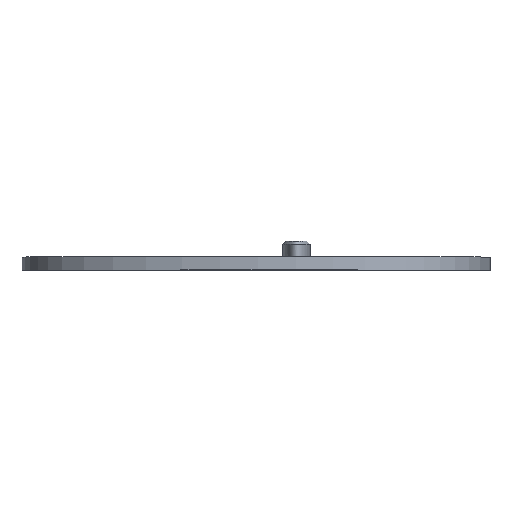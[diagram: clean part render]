
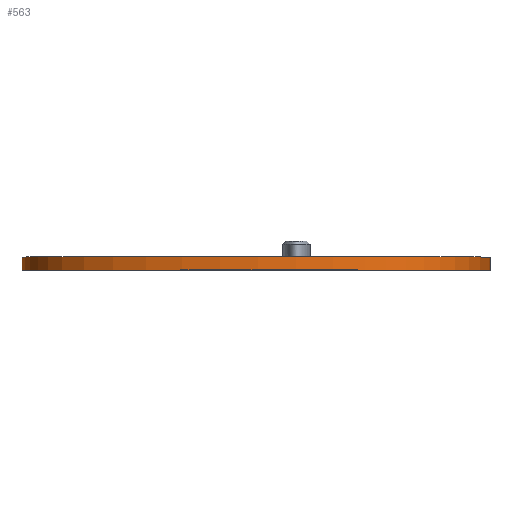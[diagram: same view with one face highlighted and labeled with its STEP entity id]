
A CAD part, top view. The second image highlights one B-rep face of the part: STEP entity #563.
In plain terms, the highlighted free-form (B-spline) face has degree [3, 1] with [21, 2] control points.
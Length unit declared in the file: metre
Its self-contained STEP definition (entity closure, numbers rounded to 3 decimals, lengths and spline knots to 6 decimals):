
#88=B_SPLINE_CURVE_WITH_KNOTS('',3,(#894,#895,#896,#897,#898,#899),
 .UNSPECIFIED.,.F.,.F.,(4,1,1,4),(0.,0.353204,0.653728,
1.),.UNSPECIFIED.);
#89=B_SPLINE_CURVE_WITH_KNOTS('',3,(#903,#904,#905,#906,#907,#908),
 .UNSPECIFIED.,.F.,.F.,(4,1,1,4),(0.,0.353204,0.653728,
1.),.UNSPECIFIED.);
#92=ORIENTED_EDGE('',*,*,#214,.F.);
#93=ORIENTED_EDGE('',*,*,#215,.T.);
#94=ORIENTED_EDGE('',*,*,#216,.T.);
#95=ORIENTED_EDGE('',*,*,#217,.F.);
#214=EDGE_CURVE('',#275,#276,#332,.T.);
#215=EDGE_CURVE('',#275,#277,#88,.T.);
#216=EDGE_CURVE('',#277,#278,#333,.T.);
#217=EDGE_CURVE('',#276,#278,#89,.T.);
#275=VERTEX_POINT('',#892);
#276=VERTEX_POINT('',#893);
#277=VERTEX_POINT('',#900);
#278=VERTEX_POINT('',#902);
#332=LINE('',#891,#342);
#333=LINE('',#901,#343);
#342=VECTOR('',#686,1.);
#343=VECTOR('',#687,1.);
#352=EDGE_LOOP('',(#92,#93,#94,#95));
#456=FACE_BOUND('',#352,.T.);
#560=B_SPLINE_SURFACE_WITH_KNOTS('',3,1,((#849,#850),(#851,#852),(#853,
#854),(#855,#856),(#857,#858),(#859,#860),(#861,#862),(#863,#864),(#865,
#866),(#867,#868),(#869,#870),(#871,#872),(#873,#874),(#875,#876),(#877,
#878),(#879,#880),(#881,#882),(#883,#884),(#885,#886),(#887,#888),(#889,
#890)),.SURF_OF_LINEAR_EXTRUSION.,.F.,.F.,.F.,(4,1,1,1,1,1,1,1,1,1,1,1,
1,1,1,1,1,1,4),(2,2),(0.0647,0.119357,0.174015,
0.228672,0.28333,0.337987,0.365316,
0.392645,0.447302,0.50196,0.556617,
0.611275,0.638604,0.665933,0.72059,
0.775248,0.829905,0.884563,0.93922),
(0.,1.),.UNSPECIFIED.);
#563=ADVANCED_FACE('',(#456),#560,.F.);
#686=DIRECTION('',(0.,-1.,0.));
#687=DIRECTION('',(0.,-1.,0.));
#849=CARTESIAN_POINT('',(0.122878,-0.0015,0.08198));
#850=CARTESIAN_POINT('',(0.122878,0.0005,0.08198));
#851=CARTESIAN_POINT('',(0.123942,-0.0015,0.086678));
#852=CARTESIAN_POINT('',(0.123942,0.0005,0.086678));
#853=CARTESIAN_POINT('',(0.125952,-0.0015,0.096244));
#854=CARTESIAN_POINT('',(0.125952,0.0005,0.096244));
#855=CARTESIAN_POINT('',(0.127969,-0.0015,0.110383));
#856=CARTESIAN_POINT('',(0.127969,0.0005,0.110383));
#857=CARTESIAN_POINT('',(0.128346,-0.0015,0.123595));
#858=CARTESIAN_POINT('',(0.128346,0.0005,0.123595));
#859=CARTESIAN_POINT('',(0.126436,-0.0015,0.135157));
#860=CARTESIAN_POINT('',(0.126436,0.0005,0.135157));
#861=CARTESIAN_POINT('',(0.122418,-0.0015,0.142826));
#862=CARTESIAN_POINT('',(0.122418,0.0005,0.142826));
#863=CARTESIAN_POINT('',(0.117392,-0.0015,0.147407));
#864=CARTESIAN_POINT('',(0.117392,0.0005,0.147407));
#865=CARTESIAN_POINT('',(0.111195,-0.0015,0.150898));
#866=CARTESIAN_POINT('',(0.111195,0.0005,0.150898));
#867=CARTESIAN_POINT('',(0.101785,-0.0015,0.153326));
#868=CARTESIAN_POINT('',(0.101785,0.0005,0.153326));
#869=CARTESIAN_POINT('',(0.089287,-0.0015,0.153385));
#870=CARTESIAN_POINT('',(0.089287,0.0005,0.153385));
#871=CARTESIAN_POINT('',(0.077067,-0.0015,0.150843));
#872=CARTESIAN_POINT('',(0.077067,0.0005,0.150843));
#873=CARTESIAN_POINT('',(0.068353,-0.0015,0.146766));
#874=CARTESIAN_POINT('',(0.068353,0.0005,0.146766));
#875=CARTESIAN_POINT('',(0.062992,-0.0015,0.142454));
#876=CARTESIAN_POINT('',(0.062992,0.0005,0.142454));
#877=CARTESIAN_POINT('',(0.058986,-0.0015,0.137485));
#878=CARTESIAN_POINT('',(0.058986,0.0005,0.137485));
#879=CARTESIAN_POINT('',(0.056663,-0.0015,0.130122));
#880=CARTESIAN_POINT('',(0.056663,0.0005,0.130122));
#881=CARTESIAN_POINT('',(0.057414,-0.0015,0.11973));
#882=CARTESIAN_POINT('',(0.057414,0.0005,0.11973));
#883=CARTESIAN_POINT('',(0.061047,-0.0015,0.108064));
#884=CARTESIAN_POINT('',(0.061047,0.0005,0.108064));
#885=CARTESIAN_POINT('',(0.066877,-0.0015,0.09541));
#886=CARTESIAN_POINT('',(0.066877,0.0005,0.09541));
#887=CARTESIAN_POINT('',(0.071776,-0.0015,0.086503));
#888=CARTESIAN_POINT('',(0.071776,0.0005,0.086503));
#889=CARTESIAN_POINT('',(0.074366,-0.0015,0.08198));
#890=CARTESIAN_POINT('',(0.074366,0.0005,0.08198));
#891=CARTESIAN_POINT('',(0.122878,0.0144,0.08198));
#892=CARTESIAN_POINT('',(0.122878,0.0005,0.08198));
#893=CARTESIAN_POINT('',(0.122878,-0.0015,0.08198));
#894=CARTESIAN_POINT('',(0.119027,0.0005,0.065851));
#895=CARTESIAN_POINT('',(0.12584,0.0005,0.093829));
#896=CARTESIAN_POINT('',(0.143676,0.0005,0.163128));
#897=CARTESIAN_POINT('',(0.034263,0.0005,0.149335));
#898=CARTESIAN_POINT('',(0.065878,0.0005,0.09597));
#899=CARTESIAN_POINT('',(0.083368,0.0005,0.066694));
#900=CARTESIAN_POINT('',(0.074366,0.0005,0.08198));
#901=CARTESIAN_POINT('',(0.074366,0.0144,0.08198));
#902=CARTESIAN_POINT('',(0.074366,-0.0015,0.08198));
#903=CARTESIAN_POINT('',(0.119027,-0.0015,0.065851));
#904=CARTESIAN_POINT('',(0.12584,-0.0015,0.093829));
#905=CARTESIAN_POINT('',(0.143676,-0.0015,0.163128));
#906=CARTESIAN_POINT('',(0.034263,-0.0015,0.149335));
#907=CARTESIAN_POINT('',(0.065878,-0.0015,0.09597));
#908=CARTESIAN_POINT('',(0.083368,-0.0015,0.066694));
